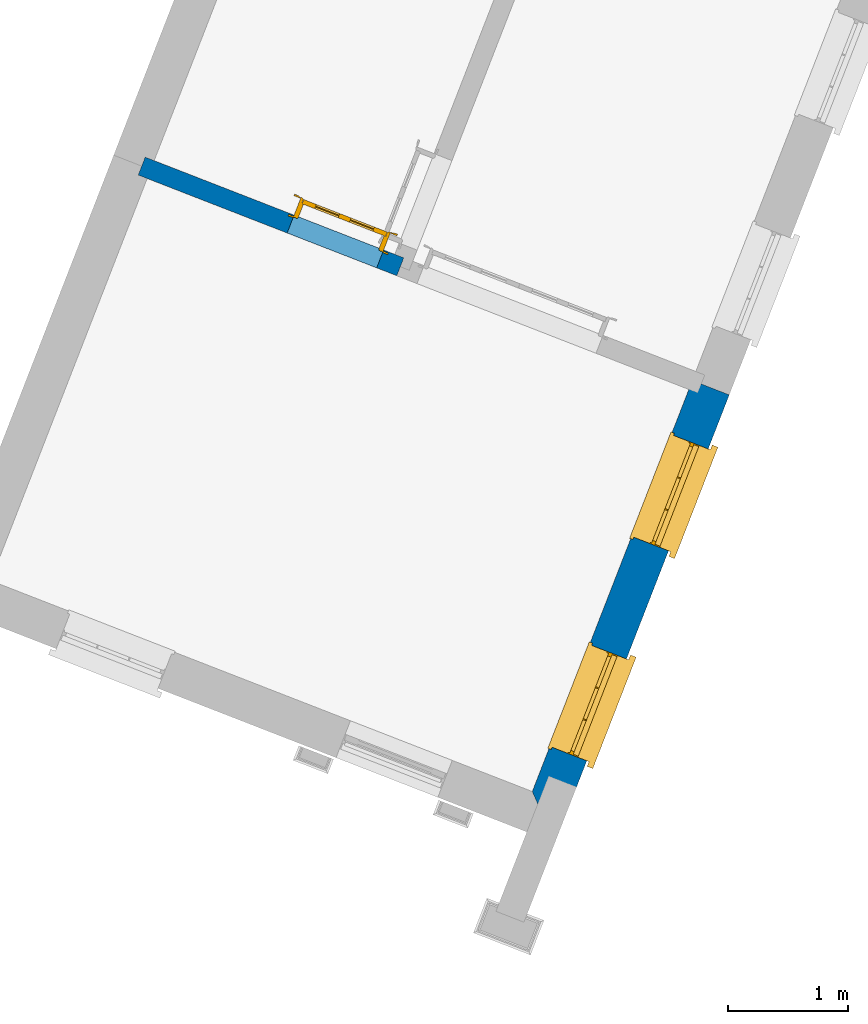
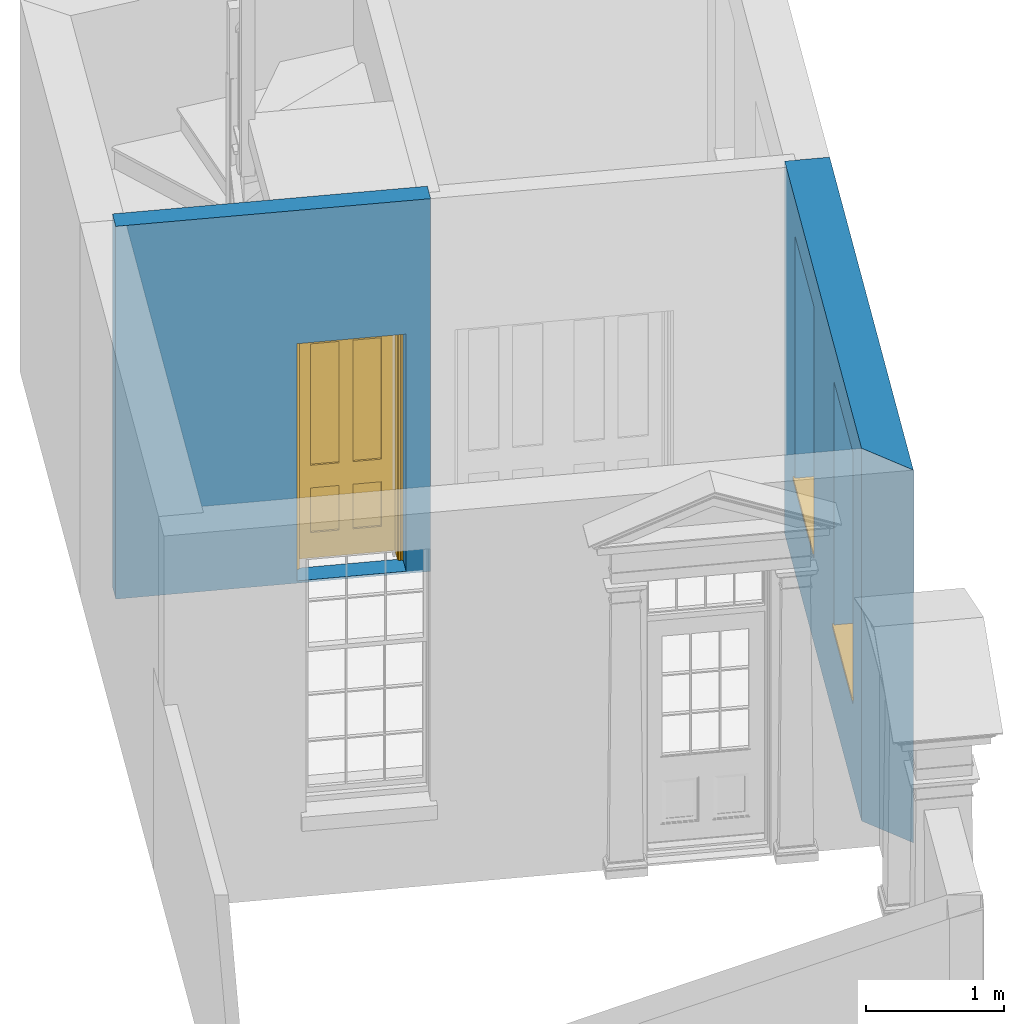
# One storey, part 4 of 7: 2 walls, 2 windows, 1 door, 3 openings.
"""IFC4 building model written with IfcOpenShell, lengths in metres."""

from ifc_helpers import new_model, si_unit, frame, origin, origin_with_axes, place, context, subcontext, project, spatial, polyline, outline, extrude, faceted_brep, source, transform, mapped, material, layer, layer_set, layer_usage, type_object, type_shapes, element, fill, save


model = new_model("IFC4")

# Units and contexts
model_context = context("Model", 3, world=origin_with_axes())
body_context = subcontext(model_context, "Body", "Model", "MODEL_VIEW")
ifc_project = project(units=[si_unit("PLANEANGLEUNIT", "RADIAN"), si_unit("MASSUNIT", "GRAM", prefix="KILO"), si_unit("FORCEUNIT", "NEWTON", prefix="KILO"), si_unit("LENGTHUNIT", "METRE"), si_unit("AREAUNIT", "SQUARE_METRE"), si_unit("VOLUMEUNIT", "CUBIC_METRE")], contexts=[model_context, model_context])

# Sites, building, storey
site_1_placement = place(None, origin_with_axes())
site_1 = spatial("IfcSite", under=ifc_project, at=site_1_placement, Name="Tamar")
site_2_placement = place(site_1_placement, origin_with_axes())
site_2 = spatial("IfcSite", under=site_1, at=site_2_placement, Name="Site plot-10", CompositionType="ELEMENT")
building_placement = place(None, origin_with_axes())
building = spatial("IfcBuilding", under=site_2, at=building_placement, Name="Building plot-10", CompositionType="ELEMENT")
storey_placement = place(None, frame((0.0, 0.0, 26.8), z_axis=(0.0, 0.0, 1.0), x_axis=(1.0, 0.0, 0.0)))
storey = spatial("IfcBuildingStorey", under=building, at=storey_placement, Name="plot-10 0", CompositionType="ELEMENT", Elevation=26.8)

# Wall, openings, windows
ifc_material_1 = material(Name="Masonry")
ifc_layer_1 = layer(ifc_material_1, 0.33, ventilated=False)
ifc_layer_set_1 = layer_set([ifc_layer_1], Name="exterior_0.08_0.25")
ifc_layer_usage_1 = layer_usage(ifc_layer_set_1, "AXIS2", "POSITIVE", -0.25)
wall_type_1 = type_object("IfcWallType", Name="exterior_0.08_0.25", PredefinedType="SOLIDWALL", material=ifc_layer_set_1)
wall_1_placement = place(storey_placement, frame((234.763954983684, 314.84865486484, 0.0), z_axis=(0.0, 0.0, 1.0), x_axis=(0.362808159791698, 0.931863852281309, 0.0)))
wall_1 = element("IfcWall", 1, at=wall_1_placement, inside=storey, type_object=wall_type_1, material=ifc_layer_usage_1, Name="exterior", context=body_context, shape_type="SweptSolid", body=[
    extrude(outline(polyline([(0.0800000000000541, 0.0800000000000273), (-0.24999999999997, -0.24999999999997), (3.7530230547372, -0.249999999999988), (3.75302305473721, 0.0800000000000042), (0.0800000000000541, 0.0800000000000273)])), origin_with_axes(), (0.0, 0.0, 1.0), 3.3),
])
opening_1_placement = place(wall_1_placement, frame((0.483255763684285, 0.0, 0.75)))
opening_1 = element("IfcOpeningElement", 2, at=opening_1_placement, cuts=wall_1, Name="My Opening", ObjectType="Opening", context=body_context, shape_type="SweptSolid", body=[
    extrude(outline(polyline([(0.0, -0.269999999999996), (0.909999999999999, -0.270000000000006), (0.910000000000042, 1.1), (4.35762537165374e-14, 1.10000000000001), (0.0, -0.269999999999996)])), origin_with_axes(), (0.0, 0.0, 1.0), 2.23),
])
opening_2_placement = place(wall_1_placement, frame((2.35976729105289, 0.0, 0.75)))
opening_2 = element("IfcOpeningElement", 3, at=opening_2_placement, cuts=wall_1, Name="My Opening", ObjectType="Opening", context=body_context, shape_type="SweptSolid", body=[
    extrude(outline(polyline([(0.0, -0.269999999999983), (0.909999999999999, -0.269999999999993), (0.910000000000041, 1.10000000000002), (4.30766533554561e-14, 1.10000000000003), (0.0, -0.269999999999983)])), origin_with_axes(), (0.0, 0.0, 1.0), 2.23),
])
window_type = type_object("IfcWindowType", Name="sash_big_taller", PartitioningType="DOUBLE_PANEL_HORIZONTAL", PredefinedType="NOTDEFINED")
shared_shape_1 = source(origin(), body_context, "Body", "Brep", [
    faceted_brep([(0.033125, 0.145, 1.385209), (0.01, 0.145, 1.385209), (0.033125, 0.145, 1.786042), (0.876875, 0.145, 1.385209), (0.876875, 0.145, 1.786042), (0.9, 0.145, 1.385209), (0.876875, 0.145, 1.796042), (0.876875, 0.145, 2.196875), (0.9, 0.145, 2.22), (0.033125, 0.145, 2.196875), (0.033125, 0.145, 1.796042), (0.01, 0.145, 2.22), (0.876875, 0.115, 1.786042), (0.876875, 0.115, 1.385209), (0.9, 0.115, 1.347084), (0.033125, 0.115, 2.196875), (0.01, 0.115, 2.22), (0.033125, 0.115, 1.796042), (0.01, 0.115, 1.347084), (0.033125, 0.115, 1.385209), (0.033125, 0.115, 1.786042), (0.876875, 0.115, 2.196875), (0.876875, 0.115, 1.796042), (0.9, 0.115, 2.22), (0.033125, 0.145, 1.347084), (0.01, 0.145, 1.347084), (0.033125, 0.145, 0.94625), (0.876875, 0.145, 1.347084), (0.876875, 0.145, 0.94625), (0.9, 0.145, 1.347084), (0.876875, 0.145, 0.52625), (0.876875, 0.145, 0.125417), (0.9, 0.145, 0.077167), (0.033125, 0.145, 0.125417), (0.033125, 0.145, 0.52625), (0.01, 0.145, 0.077167), (-0.0425, 0.0, 0.01), (-0.0425, -0.05, 0.001667), (0.0, 0.0, 0.01), (0.9525, 0.0, 0.01), (0.91, 0.0, 0.01), (0.9525, -0.05, 0.001667), (-0.02, 0.33, 0.077167), (0.0, 0.33, 0.077167), (-0.02, 0.36, 0.077167), (0.0, 0.19, 0.077167), (0.01, 0.19, 0.077167), (0.91, 0.19, 0.077167), (0.91, 0.33, 0.077167), (0.9, 0.19, 0.077167), (0.93, 0.33, 0.077167), (0.93, 0.36, 0.077167), (0.01, 0.175, 1.385209), (0.9, 0.175, 1.385209), (0.876875, 0.175, 0.125417), (0.876875, 0.175, 0.52625), (0.9, 0.175, 0.077167), (0.876875, 0.175, 0.94625), (0.876875, 0.175, 1.347084), (0.033125, 0.175, 0.125417), (0.01, 0.175, 0.077167), (0.033125, 0.175, 0.52625), (0.033125, 0.175, 1.347084), (0.033125, 0.175, 0.94625), (-0.02, 0.33, 0.052167), (-0.02, 0.36, 0.052167), (0.93, 0.36, 0.052167), (0.93, 0.33, 0.052167), (0.91, 0.33, 0.052167), (0.0, 0.33, 0.052167), (0.91, 0.1, 0.026667), (0.0, 0.1, 0.026667), (-0.0425, -0.05, -0.123333), (0.9525, -0.05, -0.123333), (-0.0425, 0.0, -0.123333), (0.9525, 0.0, -0.123333), (0.01, 0.19, 2.22), (0.9, 0.19, 2.22), (0.0, 0.19, 2.23), (0.91, 0.19, 2.23), (0.01, 0.1, 0.077167), (0.9, 0.1, 0.077167), (0.592292, 0.145, 0.125417), (0.592292, 0.175, 0.125417), (0.317708, 0.175, 0.125417), (0.317708, 0.145, 0.125417), (0.592292, 0.145, 0.53625), (0.317708, 0.145, 0.53625), (0.317708, 0.145, 0.52625), (0.592292, 0.145, 0.52625), (0.592292, 0.175, 0.53625), (0.317708, 0.175, 0.53625), (0.592292, 0.115, 1.796042), (0.592292, 0.145, 1.796042), (0.317708, 0.145, 1.796042), (0.317708, 0.115, 1.796042), (0.317708, 0.115, 1.786042), (0.592292, 0.115, 1.786042), (0.317708, 0.145, 1.786042), (0.592292, 0.145, 1.786042), (0.602292, 0.115, 1.786042), (0.592292, 0.115, 1.385209), (0.602292, 0.115, 1.385209), (0.602292, 0.145, 1.385209), (0.592292, 0.145, 1.385209), (0.602292, 0.145, 1.786042), (0.876875, 0.145, 0.53625), (0.876875, 0.175, 0.53625), (0.602292, 0.175, 0.53625), (0.602292, 0.145, 0.53625), (0.317708, 0.175, 0.52625), (0.307708, 0.175, 0.125417), (0.307708, 0.175, 0.52625), (0.602292, 0.175, 0.52625), (0.602292, 0.175, 0.125417), (0.592292, 0.175, 0.52625), (0.307708, 0.175, 0.53625), (0.033125, 0.175, 0.53625), (0.317708, 0.175, 1.347084), (0.317708, 0.175, 0.94625), (0.307708, 0.175, 0.94625), (0.307708, 0.175, 1.347084), (0.602292, 0.175, 1.347084), (0.602292, 0.175, 0.94625), (0.592292, 0.175, 0.94625), (0.592292, 0.175, 1.347084), (0.307708, 0.145, 0.52625), (0.307708, 0.145, 0.125417), (0.307708, 0.145, 0.53625), (0.033125, 0.145, 0.53625), (0.307708, 0.145, 1.347084), (0.307708, 0.145, 0.94625), (0.592292, 0.145, 1.347084), (0.592292, 0.145, 0.94625), (0.317708, 0.145, 0.94625), (0.317708, 0.145, 1.347084), (0.602292, 0.145, 0.94625), (0.602292, 0.145, 1.347084), (0.602292, 0.145, 0.52625), (0.602292, 0.145, 0.125417), (0.307708, 0.115, 1.796042), (0.307708, 0.115, 1.786042), (0.307708, 0.115, 1.385209), (0.317708, 0.115, 1.385209), (0.317708, 0.115, 2.196875), (0.307708, 0.115, 2.196875), (0.602292, 0.115, 2.196875), (0.592292, 0.115, 2.196875), (0.602292, 0.115, 1.796042), (0.602292, 0.145, 1.796042), (0.307708, 0.145, 1.796042), (0.307708, 0.145, 2.196875), (0.317708, 0.145, 2.196875), (0.592292, 0.145, 2.196875), (0.602292, 0.145, 2.196875), (0.307708, 0.145, 1.786042), (0.317708, 0.145, 1.385209), (0.307708, 0.145, 1.385209), (0.876875, 0.175, 0.93625), (0.033125, 0.175, 0.93625), (0.033125, 0.145, 0.93625), (0.876875, 0.145, 0.93625), (0.91, 0.1, 2.23), (0.9, 0.1, 2.22), (0.01, 0.1, 2.22), (0.0, 0.1, 2.23), (0.91, 0.0, 0.0), (0.0, 0.0, 0.0), (0.91, 0.33, 0.0), (0.0, 0.33, 0.0), (0.317708, 0.145, 0.93625), (0.592292, 0.145, 0.93625), (0.317708, 0.175, 0.93625), (0.307708, 0.175, 0.93625), (0.602292, 0.175, 0.93625), (0.592292, 0.175, 0.93625), (0.307708, 0.145, 0.93625), (0.602292, 0.145, 0.93625)], [[[0, 1, 2]], [[3, 4, 5]], [[6, 7, 8]], [[9, 10, 11]], [[12, 13, 14]], [[15, 16, 17]], [[18, 19, 20]], [[21, 22, 23]], [[24, 25, 26]], [[27, 28, 29]], [[30, 31, 32]], [[33, 34, 35]], [[14, 27, 29]], [[25, 24, 18]], [[36, 37, 38]], [[39, 40, 41]], [[42, 43, 44]], [[45, 46, 43]], [[47, 48, 49]], [[50, 51, 48]], [[1, 0, 52]], [[5, 53, 3]], [[54, 55, 56]], [[57, 58, 53]], [[59, 60, 61]], [[62, 63, 52]], [[48, 43, 46, 49]], [[51, 44, 43, 48]], [[64, 42, 44, 65]], [[65, 44, 51, 66]], [[66, 51, 50, 67]], [[65, 66, 68, 69]], [[60, 56, 49, 46]], [[70, 71, 38, 40]], [[37, 41, 40, 38]], [[37, 72, 73, 41]], [[74, 75, 73, 72]], [[8, 11, 76, 77]], [[76, 78, 79, 77]], [[32, 35, 80, 81]], [[81, 80, 71, 70]], [[82, 83, 84, 85]], [[86, 87, 88, 89]], [[86, 90, 91, 87]], [[92, 93, 94, 95]], [[92, 95, 96, 97]], [[96, 98, 99, 97]], [[100, 97, 101, 102]], [[103, 104, 99, 105]], [[97, 99, 104, 101]], [[102, 103, 105, 100]], [[106, 107, 108, 109]], [[110, 84, 111, 112]], [[113, 114, 83, 115]], [[116, 112, 61, 117]], [[90, 115, 110, 91]], [[118, 119, 120, 121]], [[122, 123, 124, 125]], [[113, 108, 107, 55]], [[126, 112, 111, 127]], [[34, 61, 112, 126]], [[89, 115, 83, 82]], [[88, 110, 115, 89]], [[85, 84, 110, 88]], [[128, 116, 117, 129]], [[130, 121, 120, 131]], [[132, 125, 124, 133]], [[134, 119, 118, 135]], [[136, 123, 122, 137]], [[138, 113, 55, 30]], [[139, 114, 113, 138]], [[138, 30, 106, 109]], [[88, 126, 127, 85]], [[138, 89, 82, 139]], [[137, 132, 133, 136]], [[128, 129, 34, 126]], [[135, 130, 131, 134]], [[140, 17, 20, 141]], [[96, 141, 142, 143]], [[144, 145, 140, 95]], [[146, 147, 92, 148]], [[100, 12, 22, 148]], [[149, 6, 4, 105]], [[94, 150, 151, 152]], [[149, 93, 153, 154]], [[99, 98, 94, 93]], [[155, 2, 10, 150]], [[156, 157, 155, 98]], [[141, 155, 157, 142]], [[20, 2, 155, 141]], [[143, 156, 98, 96]], [[140, 150, 10, 17]], [[145, 151, 150, 140]], [[147, 153, 93, 92]], [[95, 94, 152, 144]], [[22, 6, 149, 148]], [[148, 149, 154, 146]], [[100, 105, 4, 12]], [[109, 86, 89, 138]], [[108, 113, 115, 90]], [[91, 110, 112, 116]], [[87, 128, 126, 88]], [[97, 100, 148, 92]], [[141, 96, 95, 140]], [[98, 155, 150, 94]], [[105, 99, 93, 149]], [[143, 101, 104, 156]], [[135, 118, 125, 132]], [[144, 152, 153, 147]], [[127, 111, 59, 33]], [[15, 9, 151, 145]], [[146, 154, 7, 21]], [[31, 54, 114, 139]], [[36, 74, 72, 37]], [[39, 41, 73, 75]], [[18, 14, 101, 143]], [[23, 16, 144, 147]], [[83, 56, 60, 84]], [[52, 53, 125, 118]], [[53, 52, 156, 104]], [[11, 8, 153, 152]], [[14, 18, 135, 132]], [[2, 1, 11, 10]], [[8, 5, 4, 6]], [[57, 53, 56, 158]], [[60, 52, 63, 159]], [[26, 25, 35, 160]], [[32, 29, 28, 161]], [[14, 23, 22, 12]], [[18, 20, 17, 16]], [[19, 0, 2, 20]], [[17, 10, 9, 15]], [[12, 4, 3, 13]], [[21, 7, 6, 22]], [[27, 58, 57, 28]], [[30, 55, 54, 31]], [[33, 59, 61, 34]], [[26, 63, 62, 24]], [[5, 8, 77, 53]], [[76, 11, 1, 52]], [[46, 45, 78, 76]], [[49, 77, 79, 47]], [[70, 162, 163, 81]], [[71, 80, 164, 165]], [[19, 142, 157, 0]], [[102, 13, 3, 103]], [[121, 130, 24, 62]], [[29, 32, 81, 14]], [[80, 35, 25, 18]], [[60, 46, 76, 52]], [[77, 49, 56, 53]], [[23, 14, 81, 163]], [[16, 164, 80, 18]], [[35, 85, 127]], [[127, 33, 35]], [[139, 82, 32]], [[32, 31, 139]], [[32, 82, 85, 35]], [[102, 101, 14]], [[14, 13, 102]], [[18, 143, 142]], [[142, 19, 18]], [[146, 21, 23]], [[23, 147, 146]], [[16, 15, 145]], [[145, 144, 16]], [[11, 152, 151]], [[151, 9, 11]], [[154, 153, 8]], [[8, 7, 154]], [[23, 163, 164, 16]], [[162, 165, 164, 163]], [[52, 118, 121]], [[121, 62, 52]], [[125, 53, 122]], [[58, 122, 53]], [[27, 137, 122, 58]], [[56, 83, 114]], [[114, 54, 56]], [[111, 84, 60]], [[60, 59, 111]], [[137, 27, 14]], [[14, 132, 137]], [[130, 135, 18]], [[18, 24, 130]], [[157, 156, 52]], [[52, 0, 157]], [[103, 3, 53]], [[53, 104, 103]], [[79, 78, 165, 162]], [[78, 45, 71, 165]], [[162, 70, 47, 79]], [[166, 75, 74, 167]], [[68, 66, 67]], [[48, 68, 67, 50]], [[69, 64, 65]], [[42, 64, 69, 43]], [[69, 68, 168, 169]], [[70, 68, 48, 47]], [[166, 168, 68, 70]], [[43, 69, 71, 45]], [[69, 169, 167, 71]], [[168, 166, 167, 169]], [[38, 167, 74, 36]], [[71, 167, 38]], [[39, 75, 166, 40]], [[40, 166, 70]], [[133, 134, 170, 171]], [[133, 124, 119, 134]], [[28, 57, 123, 136]], [[172, 91, 116, 173]], [[174, 108, 90, 175]], [[120, 173, 159, 63]], [[124, 175, 172, 119]], [[174, 123, 57, 158]], [[176, 173, 116, 128]], [[160, 159, 173, 176]], [[171, 175, 90, 86]], [[170, 172, 175, 171]], [[87, 91, 172, 170]], [[131, 120, 63, 26]], [[177, 174, 158, 161]], [[109, 108, 174, 177]], [[177, 161, 28, 136]], [[170, 176, 128, 87]], [[177, 171, 86, 109]], [[131, 26, 160, 176]], [[136, 133, 171, 177]], [[123, 174, 175, 124]], [[119, 172, 173, 120]], [[134, 131, 176, 170]], [[129, 117, 159, 160]], [[161, 158, 107, 106]], [[35, 34, 129]], [[35, 129, 160]], [[32, 106, 30]], [[32, 161, 106]], [[56, 55, 107]], [[56, 107, 158]], [[60, 117, 61]], [[60, 159, 117]]]),
])
type_shapes(window_type, [shared_shape_1])
window_1_placement = place(storey_placement, frame((235.190887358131, 315.20102523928, 0.75), z_axis=(0.0, 0.0, 1.0), x_axis=(0.330155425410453, 0.847996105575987, 0.0)))
window_1 = element("IfcWindow", 4, at=window_1_placement, inside=storey, type_object=window_type, Name="living street window", OverallHeight=2.23, OverallWidth=0.91, context=body_context, shape_type="MappedRepresentation", body=[
    mapped(shared_shape_1, transform((0.0, 0.0, 0.0), scale=1.0)),
])
fill(opening_1, window_1)
window_2_placement = place(storey_placement, frame((235.871701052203, 316.949678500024, 0.75), z_axis=(0.0, 0.0, 1.0), x_axis=(0.330155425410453, 0.847996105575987, 0.0)))
window_2 = element("IfcWindow", 5, at=window_2_placement, inside=storey, type_object=window_type, Name="living street window", OverallHeight=2.23, OverallWidth=0.91, context=body_context, shape_type="MappedRepresentation", body=[
    mapped(shared_shape_1, transform((0.0, 0.0, 0.0), scale=1.0)),
])
fill(opening_2, window_2)

# Wall, opening, door
ifc_material_2 = material(Name="Masonry")
ifc_layer_2 = layer(ifc_material_2, 0.16, ventilated=False)
ifc_layer_set_2 = layer_set([ifc_layer_2], Name="interior_0.08_0.08")
ifc_layer_usage_2 = layer_usage(ifc_layer_set_2, "AXIS2", "POSITIVE", -0.08)
wall_type_2 = type_object("IfcWallType", Name="interior_0.08_0.08", PredefinedType="SOLIDWALL", material=ifc_layer_set_2)
wall_2_placement = place(storey_placement, frame((231.466263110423, 320.160002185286, 0.0), z_axis=(0.0, 0.0, 1.0), x_axis=(0.931863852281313, -0.362808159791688, 0.0)))
wall_2 = element("IfcWall", 6, at=wall_2_placement, inside=storey, type_object=wall_type_2, material=ifc_layer_usage_2, Name="interior", context=body_context, shape_type="SweptSolid", body=[
    extrude(outline(polyline([(-1.91356679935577e-15, 0.0800000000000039), (1.90376962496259e-15, -0.0800000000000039), (2.31070094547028, -0.0800000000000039), (2.31070094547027, 0.0800000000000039), (-1.91356679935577e-15, 0.0800000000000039)])), origin_with_axes(), (0.0, 0.0, 1.0), 3.3),
])
opening_3_placement = place(wall_2_placement, frame((1.33070094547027, 0.0, 0.0199999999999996)))
opening_3 = element("IfcOpeningElement", 7, at=opening_3_placement, cuts=wall_2, Name="My Opening", ObjectType="Opening", context=body_context, shape_type="SweptSolid", body=[
    extrude(outline(polyline([(0.0, -0.0999999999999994), (0.799999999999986, -0.100000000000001), (0.800000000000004, 1.10000000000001), (1.84297022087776e-14, 1.10000000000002), (0.0, -0.0999999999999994)])), origin_with_axes(), (0.0, 0.0, 1.0), 2.1),
])
door_type = type_object("IfcDoorType", Name="door_inside", OperationType="SINGLE_SWING_LEFT", PredefinedType="NOTDEFINED")
shared_shape_2 = source(origin(), body_context, "Body", "Brep", [
    faceted_brep([(0.773, 0.33, 1.895), (0.66, 0.33, 1.895), (0.66, 0.33, 2.073), (0.773, 0.33, 2.073), (0.773, 0.33, 0.82), (0.66, 0.33, 0.82), (0.45, 0.33, 1.895), (0.45, 0.33, 2.073), (0.773, 0.33, 0.62), (0.66, 0.33, 0.62), (0.66, 0.315, 0.82), (0.66, 0.315, 1.895), (0.45, 0.315, 1.895), (0.35, 0.33, 1.895), (0.35, 0.33, 2.073), (0.773, 0.33, 0.225), (0.66, 0.33, 0.225), (0.45, 0.33, 0.62), (0.45, 0.33, 0.82), (0.45, 0.315, 0.82), (0.35, 0.33, 0.82), (0.14, 0.33, 2.073), (0.14, 0.33, 1.895), (0.773, 0.33, 0.0), (0.66, 0.33, 0.0), (0.66, 0.315, 0.225), (0.66, 0.315, 0.62), (0.45, 0.315, 0.62), (0.35, 0.33, 0.62), (0.35, 0.315, 0.82), (0.35, 0.315, 1.895), (0.14, 0.315, 1.895), (0.027, 0.33, 2.073), (0.027, 0.33, 1.895), (0.773, 0.292, 0.0), (0.66, 0.292, 0.0), (0.45, 0.33, 0.0), (0.45, 0.33, 0.225), (0.45, 0.315, 0.225), (0.35, 0.33, 0.225), (0.14, 0.33, 0.82), (0.14, 0.33, 0.62), (0.14, 0.315, 0.82), (0.027, 0.33, 0.82), (0.773, 0.292, 0.225), (0.66, 0.292, 0.225), (0.45, 0.292, 0.0), (0.35, 0.33, 0.0), (0.35, 0.315, 0.225), (0.35, 0.315, 0.62), (0.14, 0.315, 0.62), (0.027, 0.33, 0.62), (0.773, 0.292, 0.62), (0.66, 0.292, 0.62), (0.45, 0.292, 0.225), (0.35, 0.292, 0.0), (0.14, 0.33, 0.225), (0.14, 0.33, 0.0), (0.14, 0.315, 0.225), (0.027, 0.33, 0.225), (0.773, 0.292, 0.82), (0.66, 0.292, 0.82), (0.66, 0.307, 0.62), (0.66, 0.307, 0.225), (0.45, 0.307, 0.225), (0.35, 0.292, 0.225), (0.14, 0.292, 0.0), (0.027, 0.33, 0.0), (0.773, 0.292, 1.895), (0.66, 0.292, 1.895), (0.45, 0.292, 0.62), (0.45, 0.292, 0.82), (0.45, 0.307, 0.62), (0.35, 0.292, 0.62), (0.14, 0.292, 0.225), (0.027, 0.292, 0.0), (0.773, 0.292, 2.073), (0.66, 0.292, 2.073), (0.66, 0.307, 1.895), (0.66, 0.307, 0.82), (0.45, 0.307, 0.82), (0.35, 0.292, 0.82), (0.35, 0.307, 0.62), (0.35, 0.307, 0.225), (0.14, 0.307, 0.225), (0.027, 0.292, 0.225), (0.45, 0.292, 1.895), (0.45, 0.292, 2.073), (0.45, 0.307, 1.895), (0.35, 0.292, 1.895), (0.14, 0.292, 0.82), (0.14, 0.292, 0.62), (0.14, 0.307, 0.62), (0.027, 0.292, 0.62), (0.35, 0.292, 2.073), (0.35, 0.307, 1.895), (0.35, 0.307, 0.82), (0.14, 0.307, 0.82), (0.027, 0.292, 0.82), (0.14, 0.292, 2.073), (0.14, 0.292, 1.895), (0.14, 0.307, 1.895), (0.027, 0.292, 1.895), (0.027, 0.292, 2.073), (0.02, 0.335, 0.0), (0.005, 0.34, 0.0), (0.005, 0.34, 2.095), (0.02, 0.335, 2.08), (0.02, 0.33, 0.0), (0.0, 0.335, 0.0), (0.0, 0.335, 2.1), (0.795, 0.34, 2.095), (0.78, 0.335, 2.08), (0.02, 0.33, 2.08), (0.0, 0.33, 0.0), (-0.032, 0.345, 0.0), (-0.032, 0.345, 2.132), (0.8, 0.335, 2.1), (0.795, 0.34, 0.0), (0.78, 0.335, 0.0), (0.78, 0.33, 2.08), (0.04, 0.29, 0.0), (0.025, 0.29, 0.0), (0.025, 0.29, 2.075), (0.04, 0.29, 2.06), (-0.04, 0.34, 0.0), (-0.04, 0.34, 2.14), (0.832, 0.345, 2.132), (0.8, 0.335, 0.0), (0.78, 0.33, 0.0), (0.8, 0.33, 0.0), (0.86, 0.33, 0.0), (0.86, 0.33, 2.16), (0.8, 0.33, 2.1), (-0.06, 0.33, 2.16), (0.0, 0.33, 2.1), (-0.06, 0.33, 0.0), (-0.04, 0.345, 0.0), (-0.04, 0.345, 2.14), (0.84, 0.34, 2.14), (0.832, 0.345, 0.0), (0.84, 0.34, 0.0), (0.86, 0.345, 0.0), (0.86, 0.345, 2.16), (-0.06, 0.345, 2.16), (-0.06, 0.345, 0.0), (0.84, 0.345, 0.0), (0.84, 0.345, 2.14), (-0.025, 0.155, 0.0), (-0.025, 0.16, 0.0), (-0.025, 0.16, 2.125), (-0.025, 0.155, 2.125), (-0.017, 0.155, 0.0), (-0.017, 0.155, 2.117), (0.825, 0.16, 2.125), (0.825, 0.155, 2.125), (0.825, 0.155, 0.0), (0.845, 0.155, 0.0), (-0.045, 0.155, 2.145), (-0.045, 0.155, 0.0), (0.845, 0.155, 2.145), (0.015, 0.165, 0.0), (0.015, 0.165, 2.085), (0.817, 0.155, 2.117), (0.825, 0.16, 0.0), (0.845, 0.17, 0.0), (0.845, 0.17, 2.145), (-0.045, 0.17, 2.145), (-0.045, 0.17, 0.0), (0.02, 0.16, 0.0), (0.02, 0.16, 2.08), (0.785, 0.165, 2.085), (0.817, 0.155, 0.0), (0.8, 0.17, 0.0), (0.8, 0.17, 2.1), (0.0, 0.17, 2.1), (0.0, 0.17, 0.0), (0.035, 0.165, 0.0), (0.035, 0.165, 2.065), (0.78, 0.16, 2.08), (0.785, 0.165, 0.0), (0.775, 0.29, 2.075), (0.76, 0.29, 2.06), (0.035, 0.17, 2.065), (0.035, 0.17, 0.0), (0.765, 0.165, 2.065), (0.78, 0.16, 0.0), (0.765, 0.17, 0.0), (0.765, 0.17, 2.065), (0.765, 0.165, 0.0), (0.04, 0.17, 2.06), (0.04, 0.17, 0.0), (0.76, 0.17, 2.06), (0.76, 0.17, 0.0), (0.76, 0.29, 0.0), (0.775, 0.29, 0.0), (0.025, 0.33, 0.0), (0.025, 0.33, 2.075), (0.775, 0.33, 0.0), (0.775, 0.33, 2.075)], [[[0, 1, 2, 3]], [[1, 0, 4, 5]], [[1, 6, 7, 2]], [[8, 9, 5, 4]], [[1, 5, 10, 11]], [[6, 1, 11, 12]], [[6, 13, 14, 7]], [[15, 16, 9, 8]], [[9, 17, 18, 5]], [[5, 18, 19, 10]], [[10, 19, 12, 11]], [[18, 6, 12, 19]], [[18, 20, 13, 6]], [[21, 14, 13, 22]], [[23, 24, 16, 15]], [[9, 16, 25, 26]], [[17, 9, 26, 27]], [[17, 28, 20, 18]], [[13, 20, 29, 30]], [[22, 13, 30, 31]], [[32, 21, 22, 33]], [[34, 35, 24, 23]], [[24, 36, 37, 16]], [[16, 37, 38, 25]], [[25, 38, 27, 26]], [[37, 17, 27, 38]], [[37, 39, 28, 17]], [[40, 20, 28, 41]], [[20, 40, 42, 29]], [[31, 30, 29, 42]], [[40, 22, 31, 42]], [[33, 22, 40, 43]], [[35, 34, 44, 45]], [[35, 46, 36, 24]], [[36, 47, 39, 37]], [[28, 39, 48, 49]], [[41, 28, 49, 50]], [[43, 40, 41, 51]], [[45, 44, 52, 53]], [[46, 35, 45, 54]], [[46, 55, 47, 36]], [[56, 39, 47, 57]], [[39, 56, 58, 48]], [[50, 49, 48, 58]], [[56, 41, 50, 58]], [[51, 41, 56, 59]], [[53, 52, 60, 61]], [[45, 53, 62, 63]], [[54, 45, 63, 64]], [[55, 46, 54, 65]], [[55, 66, 57, 47]], [[59, 56, 57, 67]], [[61, 60, 68, 69]], [[70, 53, 61, 71]], [[53, 70, 72, 62]], [[72, 64, 63, 62]], [[70, 54, 64, 72]], [[65, 54, 70, 73]], [[65, 74, 66, 55]], [[67, 57, 66, 75]], [[69, 68, 76, 77]], [[61, 69, 78, 79]], [[71, 61, 79, 80]], [[73, 70, 71, 81]], [[65, 73, 82, 83]], [[74, 65, 83, 84]], [[74, 85, 75, 66]], [[86, 69, 77, 87]], [[69, 86, 88, 78]], [[88, 80, 79, 78]], [[86, 71, 80, 88]], [[81, 71, 86, 89]], [[73, 81, 90, 91]], [[73, 91, 92, 82]], [[83, 82, 92, 84]], [[91, 74, 84, 92]], [[91, 93, 85, 74]], [[89, 86, 87, 94]], [[81, 89, 95, 96]], [[90, 81, 96, 97]], [[90, 98, 93, 91]], [[94, 99, 100, 89]], [[89, 100, 101, 95]], [[101, 97, 96, 95]], [[100, 90, 97, 101]], [[100, 102, 98, 90]], [[99, 103, 102, 100]], [[32, 103, 99, 21]], [[102, 103, 32, 33]], [[98, 102, 33, 43]], [[21, 99, 94, 14]], [[94, 87, 7, 14]], [[7, 87, 77, 2]], [[76, 3, 2, 77]], [[43, 51, 93, 98]], [[51, 59, 85, 93]], [[67, 75, 85, 59]], [[34, 23, 15, 44]], [[44, 15, 8, 52]], [[52, 8, 4, 60]], [[0, 68, 60, 4]], [[0, 3, 76, 68]], [[104, 105, 106, 107]], [[104, 108, 109, 105]], [[105, 109, 110, 106]], [[107, 106, 111, 112]], [[107, 113, 108, 104]], [[114, 109, 108]], [[109, 115, 116, 110]], [[106, 110, 117, 111]], [[112, 111, 118, 119]], [[113, 107, 112, 120]], [[121, 122, 123, 124]], [[115, 109, 114, 125]], [[115, 125, 126, 116]], [[110, 116, 127, 117]], [[111, 117, 128, 118]], [[118, 128, 129, 119]], [[120, 112, 119, 129]], [[130, 129, 128]], [[130, 131, 132, 133]], [[133, 132, 134, 135]], [[135, 134, 136, 114]], [[136, 125, 114]], [[125, 137, 138, 126]], [[116, 126, 139, 127]], [[117, 127, 140, 128]], [[141, 130, 128, 140]], [[131, 130, 141]], [[131, 142, 143, 132]], [[132, 143, 144, 134]], [[134, 144, 145, 136]], [[137, 125, 136, 145]], [[143, 142, 146]], [[143, 146, 147]], [[137, 145, 144]], [[143, 147, 138]], [[138, 137, 144]], [[143, 138, 144]], [[126, 138, 147, 139]], [[127, 139, 141, 140]], [[142, 131, 141, 146]], [[139, 147, 146, 141]], [[148, 149, 150, 151]], [[149, 152, 153, 150]], [[151, 150, 154, 155]], [[155, 156, 157]], [[158, 159, 148]], [[158, 148, 151]], [[155, 157, 160]], [[158, 151, 155]], [[155, 160, 158]], [[152, 161, 162, 153]], [[150, 153, 163, 154]], [[155, 154, 164, 156]], [[156, 164, 165, 157]], [[157, 165, 166, 160]], [[160, 166, 167, 158]], [[158, 167, 168, 159]], [[161, 169, 170, 162]], [[153, 162, 171, 163]], [[154, 163, 172, 164]], [[165, 164, 173]], [[165, 173, 174, 166]], [[166, 174, 175, 167]], [[167, 175, 176, 168]], [[169, 177, 178, 170]], [[162, 170, 179, 171]], [[163, 171, 180, 172]], [[172, 180, 173, 164]], [[124, 123, 181, 182]], [[183, 178, 177, 184]], [[170, 178, 185, 179]], [[171, 179, 186, 180]], [[187, 173, 180]], [[185, 188, 187, 189]], [[188, 185, 178, 183]], [[179, 185, 189, 186]], [[189, 187, 180, 186]], [[190, 183, 184, 191]], [[192, 188, 183, 190]], [[191, 184, 122, 121]], [[124, 190, 191, 121]], [[193, 187, 188, 192]], [[182, 192, 190, 124]], [[184, 176, 122]], [[194, 195, 187, 193]], [[192, 182, 194, 193]], [[161, 176, 184]], [[114, 108, 122, 176]], [[173, 187, 195]], [[152, 149, 176, 161]], [[169, 161, 184, 177]], [[196, 122, 108]], [[176, 175, 135, 114]], [[173, 195, 129, 130]], [[176, 149, 168]], [[123, 122, 196, 197]], [[196, 108, 113, 197]], [[175, 174, 133, 135]], [[198, 129, 195]], [[133, 174, 173, 130]], [[159, 168, 149, 148]], [[181, 123, 197, 199]], [[197, 113, 120, 199]], [[199, 120, 129, 198]], [[195, 181, 199, 198]], [[195, 194, 182, 181]]]),
])
type_shapes(door_type, [shared_shape_2])
door_placement = place(storey_placement, frame((232.670014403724, 319.584026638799, 0.0199999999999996), z_axis=(0.0, 0.0, 1.0), x_axis=(0.745491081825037, -0.290246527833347, 0.0)))
door = element("IfcDoor", 8, at=door_placement, inside=storey, type_object=door_type, Name="living inside door", OverallHeight=2.1, OverallWidth=0.8, context=body_context, shape_type="MappedRepresentation", body=[
    mapped(shared_shape_2, transform((0.0, 0.0, 0.0), scale=1.0)),
])
fill(opening_3, door)

save(model, "model.ifc")
